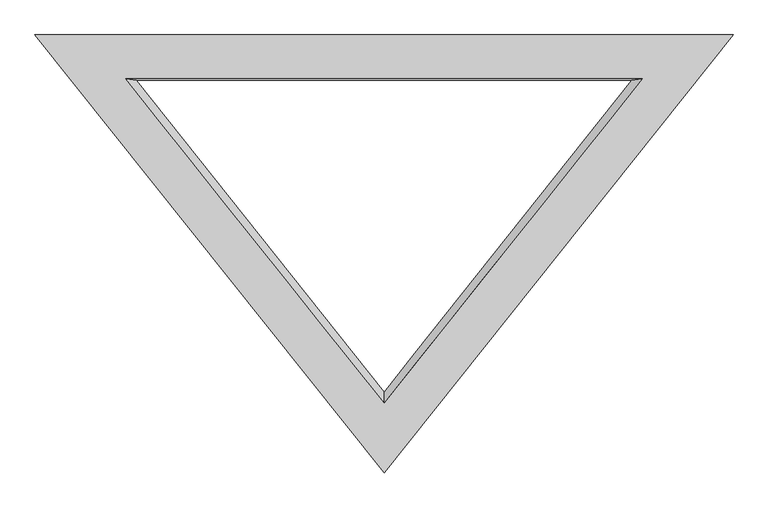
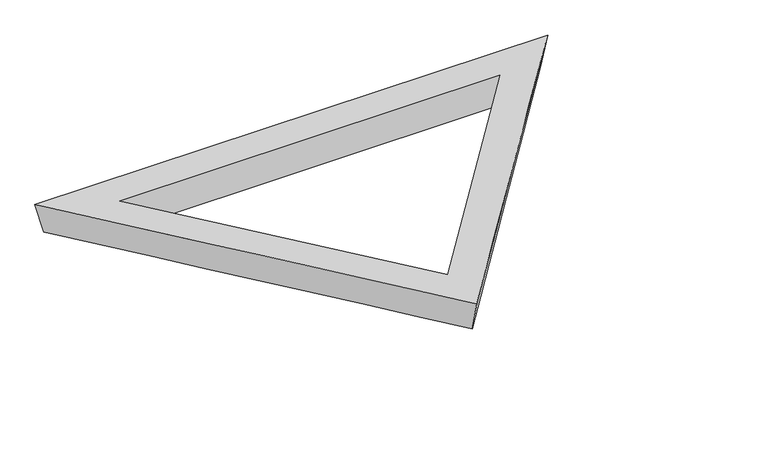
"""IFC4 building model written with IfcOpenShell, lengths in millimetres: plate geometry."""

from ifc_helpers import new_model, si_unit, frame, origin, place, context, project, spatial, source, transform, mapped, element, save
from ifc_brep_helpers import plane_surface, spline_surface, advanced_brep


def plate_2b430b70(model_context):
    return source(origin(), model_context, "Body", "AdvancedBrep", [
        advanced_brep(
        [(4941.6836635, 5537.9861046, 0.0), (4892.3134518, 5545.0827196, 196.7778026), (6096.0, 4035.9119861, 197.4104311), (6096.0, 4084.3808064, 0.0), (7299.6865482, 5545.0827196, 196.7778026), (7250.3163365, 5537.9861046, 0.0), (6096.0, 3757.6277908, 0.0), (7671.1550774, 5741.1861046, 0.0), (7721.6713147, 5748.2827017, 196.6926233), (6096.0, 3710.0314859, 197.5470368), (4520.8449226, 5741.1861046, 0.0), (4470.3286853, 5748.2827017, 196.6926233)],
        [
            (0, 1),
            (1, 2),
            (2, 3),
            (3, 0),
            (2, 4),
            (4, 5),
            (5, 3),
            (0, 5),
            (4, 1),
            (6, 7),
            (7, 8),
            (8, 9),
            (9, 6),
            (7, 10),
            (10, 11),
            (11, 8),
            (9, 11),
            (10, 6),
        ],
        [
            spline_surface(1, 1, [[(4941.6836635, 5537.9861046, 0.0), (6096.0, 4084.3808064, 0.0)], [(4892.3134518, 5545.0827196, 196.7778026), (6096.0, 4035.9119861, 197.4104311)]], [2, 2], [2, 2], [0.0, 1.0], [0.0, 1.0]),
            spline_surface(1, 1, [[(6096.0, 4084.3808064, 0.0), (7250.3163365, 5537.9861046, 0.0)], [(6096.0, 4035.9119861, 197.4104311), (7299.6865482, 5545.0827196, 196.7778026)]], [2, 2], [2, 2], [0.0, 1.0], [0.0, 1.0]),
            plane_surface(frame((6096.0, 5537.9861046, 0.0), z_axis=(0.0, -0.9993503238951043, 0.036040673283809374), x_axis=(-1.0, 0.0, 0.0))),
            spline_surface(1, 1, [[(6096.0, 3757.6277908, 0.0), (6096.0, 3710.0314859, 197.5470368)], [(7671.1550774, 5741.1861046, 0.0), (7721.6713147, 5748.2827017, 196.6926233)]], [2, 2], [2, 2], [0.0, 1.0], [0.0, 1.0]),
            plane_surface(frame((6096.0, 5741.1861046, 0.0), z_axis=(0.0, 0.9993497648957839, -0.03605617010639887), x_axis=(-1.0, 0.0, 0.0))),
            spline_surface(1, 1, [[(4520.8449226, 5741.1861046, 0.0), (4470.3286853, 5748.2827017, 196.6926233)], [(6096.0, 3757.6277908, 0.0), (6096.0, 3710.0314859, 197.5470368)]], [2, 2], [2, 2], [0.0, 1.0], [0.0, 1.0]),
            plane_surface(frame((6096.0, 5068.8656298, 196.9774278), z_axis=(0.0, 0.0004191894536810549, 0.9999999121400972), x_axis=(0.6235413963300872, -0.7817902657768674, 0.0003277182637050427))),
            plane_surface(frame((6096.0, 5080.0, 0.0), z_axis=(0.0, 0.0, -1.0), x_axis=(-0.621876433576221, 0.7831153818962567, 0.0))),
        ],
        [
            (0, [[1, 2, 3, 4]]),
            (1, [[-3, 5, 6, 7]]),
            (2, [[-1, 8, -6, 9]]),
            (3, [[10, 11, 12, 13]]),
            (4, [[-11, 14, 15, 16]]),
            (5, [[-13, 17, -15, 18]]),
            (6, [[-12, -16, -17], [-2, -9, -5]]),
            (7, [[-10, -18, -14], [-4, -7, -8]]),
        ],
    ),
    ])


if __name__ == "__main__":
    model = new_model("IFC4")
    model_context = context("Model", 3, world=origin())
    ifc_project = project(units=[si_unit("LENGTHUNIT", "METRE", prefix="MILLI")], contexts=[model_context])
    site = spatial("IfcSite", under=ifc_project)
    building = spatial("IfcBuilding", under=site)
    placement = place(None, origin())
    plate_shape = plate_2b430b70(model_context)
    element("IfcPlate", 1, ObjectType="tn_cpanel_patbase_triangle_flat_seamless_frame_02_cylinder : tn_cpanel_pattern_mullion_t8\"xh8\"", at=placement, inside=building, context=model_context, shape_type="MappedRepresentation", body=[
        mapped(plate_shape, transform((0.0, 0.0, 0.0), x_axis=(1.0, 0.0, 0.0), y_axis=(0.0, 1.0, 0.0), z_axis=(0.0, 0.0, 1.0))),
    ])
    save(model, "model.ifc")
